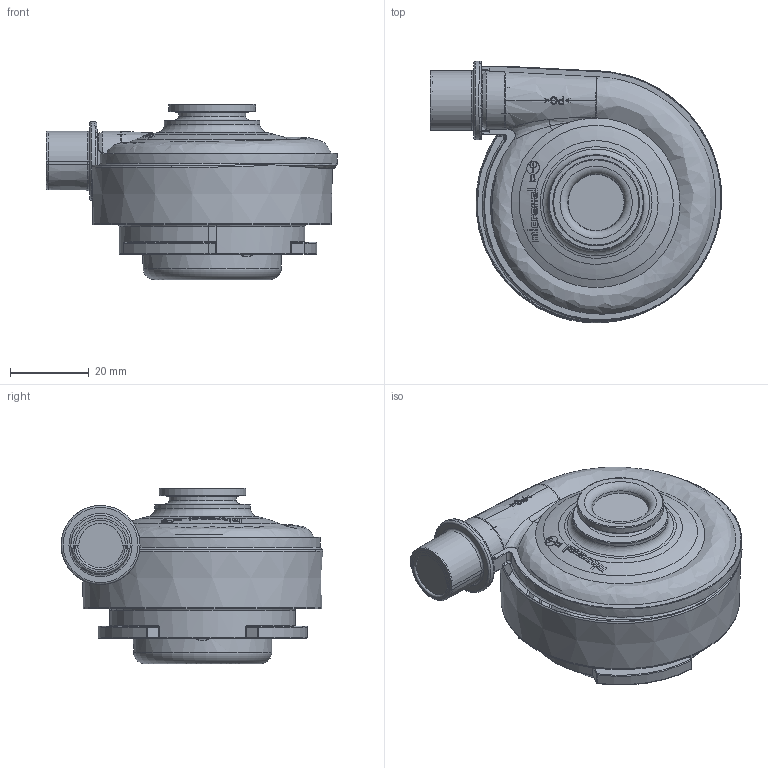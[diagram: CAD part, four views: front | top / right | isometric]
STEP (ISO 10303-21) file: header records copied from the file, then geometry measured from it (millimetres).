
FILE_DESCRIPTION(/* description */ (''),/* implementation_level */ '2;1');
FILE_NAME(/* name */ 'U65ML-024KS-5_Simple.stp',/* time_stamp */ '2019-12-10T13:44:33+01:00',/* author */ (''),/* organization */ (''),/* preprocessor_version */ 'ST-DEVELOPER v16',/* originating_system */ 'SIEMENS PLM Software NX 11.0',/* authorisation */ '');
FILE_SCHEMA (('AUTOMOTIVE_DESIGN { 1 0 10303 214 3 1 1 1 }'));
Length unit declared in the file: millimetre
Products named in the file (1): model2
Bounding box: 73.78 x 66.34 x 44.5 mm (x, y, z)
Volume: 88524.3 mm3; surface area: 17203.9 mm2
Topology: 3 solids, 9 shells, 541 faces, 1362 edges, 831 vertices
Faces by surface type: plane 194, bspline 107, cylinder 102, torus 63, extrusion 26, sphere 24, cone 23, revolution 2
Full cylindrical faces by diameter (mm): 16.967 x1, 20 x1, 21.966 x1, 24.23 x1, 60.487 x1
Entity records: 23012 total; most frequent: CARTESIAN_POINT 11811, ORIENTED_EDGE 2572, DIRECTION 1873, EDGE_CURVE 1286, VERTEX_POINT 810, AXIS2_PLACEMENT_3D 731, EDGE_LOOP 588, B_SPLINE_CURVE_WITH_KNOTS 576
